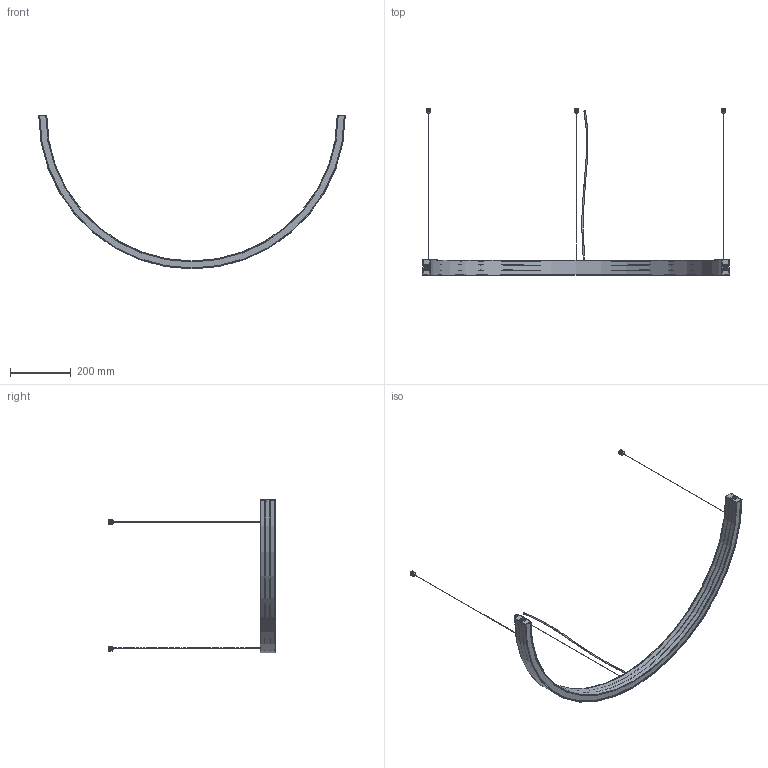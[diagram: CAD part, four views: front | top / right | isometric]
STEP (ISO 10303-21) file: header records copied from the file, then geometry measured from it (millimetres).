
FILE_DESCRIPTION (( 'STEP AP203' ), '1' );
FILE_NAME ('3D ZIRKOL ARCO 1M.STEP', '2023-03-16T09:01:37', ( '' ), ( '' ), 'SwSTEP 2.0', 'SolidWorks 2016', '' );
FILE_SCHEMA (( 'CONFIG_CONTROL_DESIGN' ));
Length unit declared in the file: millimetre
Products named in the file (10): 3-CLE-0846-0-00 Cavo guaina trasparente down; 1-MAS-0380-0-00 Gripper; (Gripper+sospensione+rosoncino); 3D ZIRKOL ARCO 1M; 6-SLK-0003-0-00 Testata; 1-MAS-0379-0-00 Attacco rosone; 0-MAS-0375-1-00 Cavetto inox; Schermo arco 1M; 1-MAS-0378-0-00 Rosone nichelato; ARCO Zirkol 1M
Assembly tree (12 placements, depth 3):
  3D ZIRKOL ARCO 1M
    ARCO Zirkol 1M
    Schermo arco 1M
    6-SLK-0003-0-00 Testata  x2
    (Gripper+sospensione+rosoncino)  x3
      1-MAS-0380-0-00 Gripper
      0-MAS-0375-1-00 Cavetto inox
      1-MAS-0379-0-00 Attacco rosone
      1-MAS-0378-0-00 Rosone nichelato
    3-CLE-0846-0-00 Cavo guaina trasparente down
Bounding box: 1010 x 548.57 x 507 mm (x, y, z)
Volume: 549205 mm3; surface area: 583238 mm2
Topology: 20 solids, 20 shells, 971 faces, 2646 edges, 1726 vertices
Faces by surface type: plane 351, cylinder 282, torus 150, bspline 109, cone 79
Entity records: 23442 total; most frequent: CARTESIAN_POINT 10249, ORIENTED_EDGE 2682, DIRECTION 2453, EDGE_CURVE 1341, AXIS2_PLACEMENT_3D 923, VERTEX_POINT 882, VECTOR 607, LINE 607
